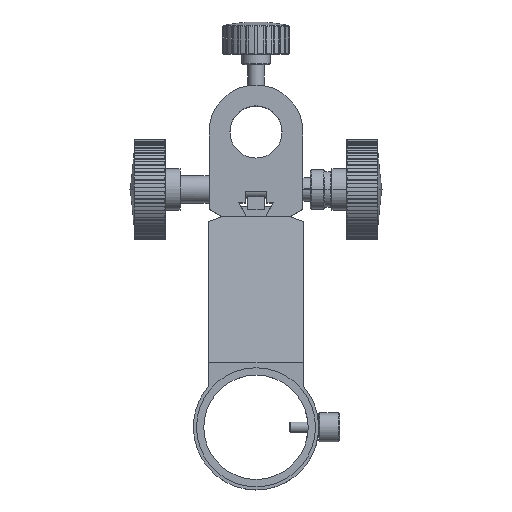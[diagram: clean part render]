
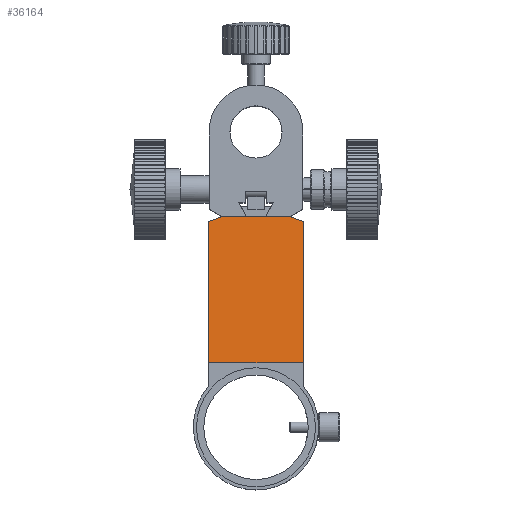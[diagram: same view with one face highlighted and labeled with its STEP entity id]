
A CAD part, top view. The second image highlights one B-rep face of the part: STEP entity #36164.
In plain terms, the highlighted planar face has unit normal (0, 0.106, 0.994).
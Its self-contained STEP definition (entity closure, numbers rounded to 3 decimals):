
#34955=DIRECTION('',(0.,0.994,-0.107));
#34956=VECTOR('',#34955,67.886);
#34957=CARTESIAN_POINT('',(-563.155,633.537,205.7));
#34958=LINE('',#34957,#34956);
#34971=DIRECTION('',(0.937,0.347,-0.037));
#34972=VECTOR('',#34971,7.203);
#34973=CARTESIAN_POINT('',(-563.155,701.037,
198.468));
#34974=LINE('',#34973,#34972);
#34979=DIRECTION('',(-1.,0.,0.));
#34980=VECTOR('',#34979,32.);
#34981=CARTESIAN_POINT('',(-524.405,703.537,198.2));
#34982=LINE('',#34981,#34980);
#34995=DIRECTION('',(0.,-0.994,0.107));
#34996=VECTOR('',#34995,67.886);
#34997=CARTESIAN_POINT('',(-517.655,701.037,
198.468));
#34998=LINE('',#34997,#34996);
#35022=DIRECTION('',(-1.,0.,0.));
#35023=VECTOR('',#35022,45.5);
#35024=CARTESIAN_POINT('',(-517.655,633.537,205.7));
#35025=LINE('',#35024,#35023);
#35445=DIRECTION('',(0.937,-0.347,0.037));
#35446=VECTOR('',#35445,7.203);
#35447=CARTESIAN_POINT('',(-524.405,703.537,198.2));
#35448=LINE('',#35447,#35446);
#35637=CARTESIAN_POINT('',(-524.405,703.537,198.2));
#35638=CARTESIAN_POINT('',(-556.405,703.537,198.2));
#35639=VERTEX_POINT('',#35637);
#35640=VERTEX_POINT('',#35638);
#35712=CARTESIAN_POINT('',(-517.655,701.037,
198.468));
#35713=CARTESIAN_POINT('',(-517.655,633.537,205.7));
#35714=VERTEX_POINT('',#35712);
#35715=VERTEX_POINT('',#35713);
#35716=CARTESIAN_POINT('',(-563.155,701.037,
198.468));
#35717=VERTEX_POINT('',#35716);
#35718=CARTESIAN_POINT('',(-563.155,633.537,205.7));
#35719=VERTEX_POINT('',#35718);
#36147=CARTESIAN_POINT('',(-512.496,625.87,
206.521));
#36148=DIRECTION('',(0.,0.107,0.994));
#36149=DIRECTION('',(0.,-0.994,0.107));
#36150=AXIS2_PLACEMENT_3D('',#36147,#36148,#36149);
#36151=PLANE('',#36150);
#36153=ORIENTED_EDGE('',*,*,#36152,.T.);
#36155=ORIENTED_EDGE('',*,*,#36154,.T.);
#36156=ORIENTED_EDGE('',*,*,#36121,.T.);
#36157=ORIENTED_EDGE('',*,*,#36138,.T.);
#36159=ORIENTED_EDGE('',*,*,#36158,.F.);
#36161=ORIENTED_EDGE('',*,*,#36160,.T.);
#36162=EDGE_LOOP('',(#36153,#36155,#36156,#36157,#36159,#36161));
#36163=FACE_OUTER_BOUND('',#36162,.F.);
#36164=ADVANCED_FACE('',(#36163),#36151,.T.);
#36121=EDGE_CURVE('',#35719,#35717,#34958,.T.);
#36138=EDGE_CURVE('',#35717,#35640,#34974,.T.);
#36152=EDGE_CURVE('',#35714,#35715,#34998,.T.);
#36154=EDGE_CURVE('',#35715,#35719,#35025,.T.);
#36158=EDGE_CURVE('',#35639,#35640,#34982,.T.);
#36160=EDGE_CURVE('',#35639,#35714,#35448,.T.);
